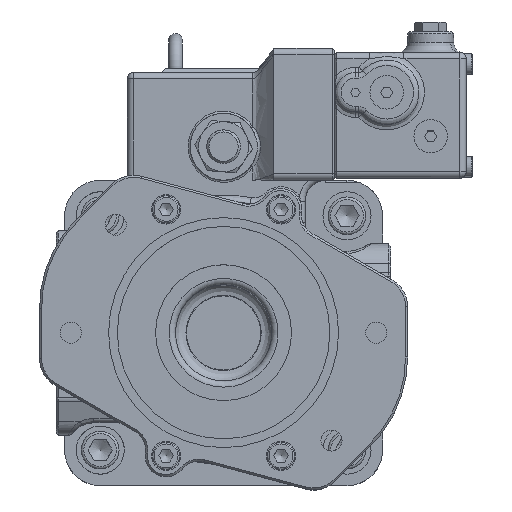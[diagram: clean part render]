
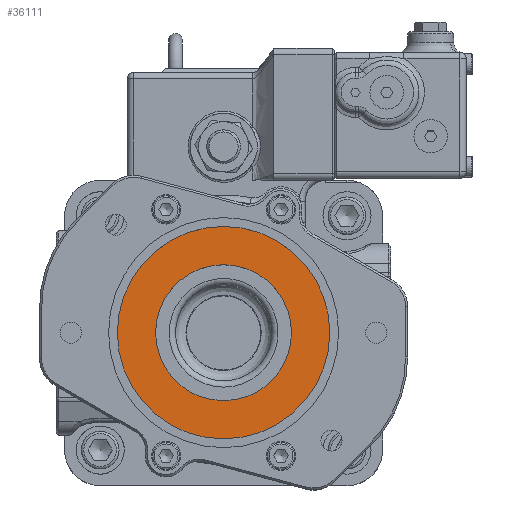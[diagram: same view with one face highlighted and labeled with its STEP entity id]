
A CAD part, top view. The second image highlights one B-rep face of the part: STEP entity #36111.
In plain terms, the highlighted planar face has unit normal (0, 0, 1).
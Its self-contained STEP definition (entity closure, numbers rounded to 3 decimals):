
#36029=CARTESIAN_POINT('',(32.5,0.,262.7));
#36030=VERTEX_POINT('',#36029);
#36031=CARTESIAN_POINT('',(0.,0.,262.7));
#36032=DIRECTION('',(0.0,0.0,1.0));
#36033=DIRECTION('',(1.0,0.0,0.0));
#36034=AXIS2_PLACEMENT_3D('',#36031,#36032,#36033);
#36035=CIRCLE('',#36034,32.5);
#36036=EDGE_CURVE('',#36030,#36030,#36035,.T.);
#36092=CARTESIAN_POINT('',(0.,0.,262.7));
#36093=DIRECTION('',(0.0,0.0,-1.0));
#36094=DIRECTION('',(-1.0,0.0,0.0));
#36095=AXIS2_PLACEMENT_3D('',#36092,#36093,#36094);
#36096=PLANE('',#36095);
#36097=CARTESIAN_POINT('',(50.8,0.,262.7));
#36098=VERTEX_POINT('',#36097);
#36099=CARTESIAN_POINT('',(0.,0.,262.7));
#36100=DIRECTION('',(0.0,0.0,1.0));
#36101=DIRECTION('',(-1.0,0.0,0.0));
#36102=AXIS2_PLACEMENT_3D('',#36099,#36100,#36101);
#36103=CIRCLE('',#36102,50.8);
#36104=EDGE_CURVE('',#36098,#36098,#36103,.T.);
#36105=ORIENTED_EDGE('',*,*,#36104,.T.);
#36106=EDGE_LOOP('',(#36105));
#36107=FACE_OUTER_BOUND('',#36106,.T.);
#36108=ORIENTED_EDGE('',*,*,#36036,.F.);
#36109=EDGE_LOOP('',(#36108));
#36110=FACE_BOUND('',#36109,.T.);
#36111=ADVANCED_FACE('',(#36107,#36110),#36096,.F.);
